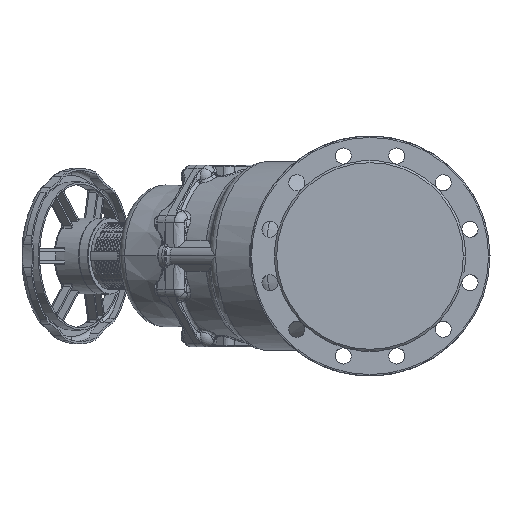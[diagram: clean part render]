
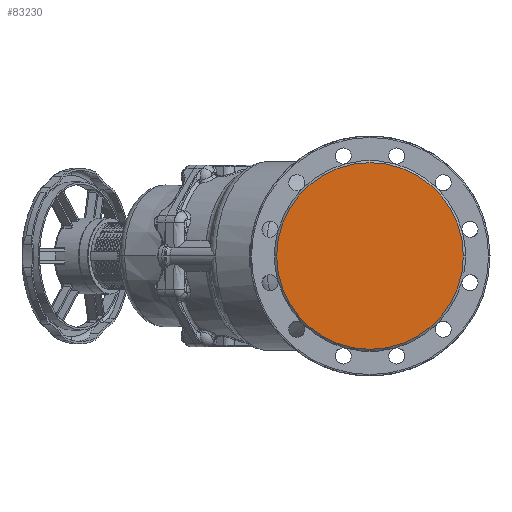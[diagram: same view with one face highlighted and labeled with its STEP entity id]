
A CAD part, left-side view. The second image highlights one B-rep face of the part: STEP entity #83230.
In plain terms, the highlighted planar face has unit normal (-1, 0, 0).
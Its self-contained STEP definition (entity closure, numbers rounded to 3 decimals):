
#1430 = CARTESIAN_POINT ( 'NONE',  ( -122.11, 133., 0. ) ) ;
#13398 = EDGE_CURVE ( 'NONE', #93863, #54752, #93949, .T. ) ;
#13750 = DIRECTION ( 'NONE',  ( 0., 1., 0. ) ) ;
#21928 = AXIS2_PLACEMENT_3D ( 'NONE', #42227, #123028, #13750 ) ;
#24585 = CIRCLE ( 'NONE', #171846, 133. ) ;
#30009 = DIRECTION ( 'NONE',  ( 1., 0., 0. ) ) ;
#30593 = PLANE ( 'NONE',  #163736 ) ;
#33305 = ORIENTED_EDGE ( 'NONE', *, *, #145044, .F. ) ;
#38642 = EDGE_LOOP ( 'NONE', ( #83256, #33305 ) ) ;
#42227 = CARTESIAN_POINT ( 'NONE',  ( -122.11, 0., 0. ) ) ;
#49082 = DIRECTION ( 'NONE',  ( 1., 0., 0. ) ) ;
#54752 = VERTEX_POINT ( 'NONE', #84185 ) ;
#77005 = CARTESIAN_POINT ( 'NONE',  ( -122.11, 0., 0. ) ) ;
#83230 = ADVANCED_FACE ( 'NONE', ( #171720 ), #30593, .F. ) ;
#83256 = ORIENTED_EDGE ( 'NONE', *, *, #13398, .F. ) ;
#84185 = CARTESIAN_POINT ( 'NONE',  ( -122.11, -133., 0. ) ) ;
#93863 = VERTEX_POINT ( 'NONE', #1430 ) ;
#93949 = CIRCLE ( 'NONE', #21928, 133. ) ;
#118551 = DIRECTION ( 'NONE',  ( 0., 1., 0. ) ) ;
#123028 = DIRECTION ( 'NONE',  ( 1., 0., 0. ) ) ;
#139298 = CARTESIAN_POINT ( 'NONE',  ( -122.11, -133., 0. ) ) ;
#145044 = EDGE_CURVE ( 'NONE', #54752, #93863, #24585, .T. ) ;
#151218 = DIRECTION ( 'NONE',  ( 0., 1., 0. ) ) ;
#163736 = AXIS2_PLACEMENT_3D ( 'NONE', #139298, #30009, #151218 ) ;
#171720 = FACE_OUTER_BOUND ( 'NONE', #38642, .T. ) ;
#171846 = AXIS2_PLACEMENT_3D ( 'NONE', #77005, #49082, #118551 ) ;
